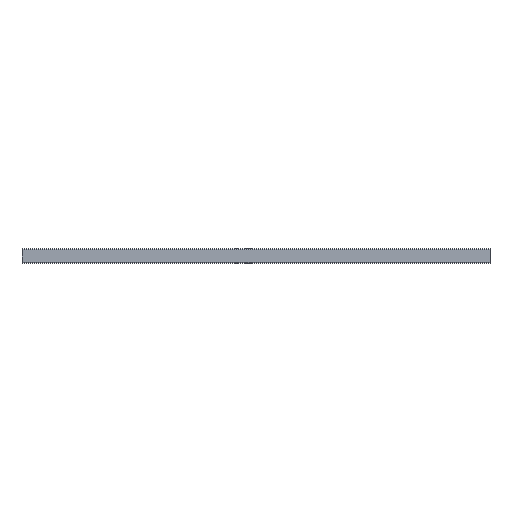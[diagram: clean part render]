
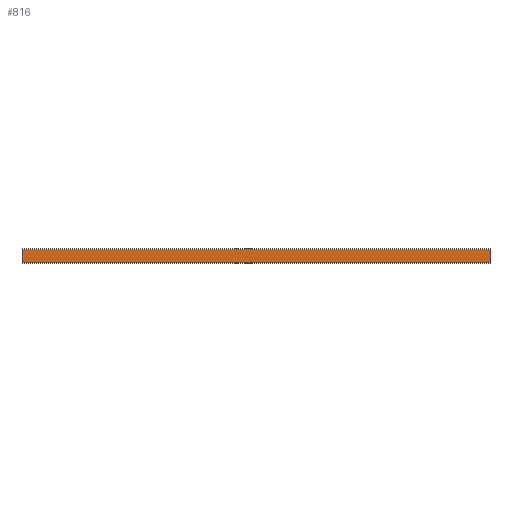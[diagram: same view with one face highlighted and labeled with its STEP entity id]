
A CAD part, top view. The second image highlights one B-rep face of the part: STEP entity #816.
In plain terms, the highlighted planar face has unit normal (0, 0, 1).
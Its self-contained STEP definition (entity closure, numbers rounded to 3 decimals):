
#53 = EDGE_CURVE ( 'NONE', #151, #1241, #1439, .T. ) ;
#151 = VERTEX_POINT ( 'NONE', #3150 ) ;
#178 = EDGE_CURVE ( 'NONE', #1241, #666, #3043, .T. ) ;
#194 = DIRECTION ( 'NONE',  ( 0., 0., -1. ) ) ;
#363 = VECTOR ( 'NONE', #2660, 1000. ) ;
#386 = VECTOR ( 'NONE', #2757, 1000. ) ;
#424 = CARTESIAN_POINT ( 'NONE',  ( 0., -13., 15. ) ) ;
#472 = EDGE_LOOP ( 'NONE', ( #927, #837, #1948, #1854 ) ) ;
#666 = VERTEX_POINT ( 'NONE', #424 ) ;
#684 = LINE ( 'NONE', #787, #702 ) ;
#702 = VECTOR ( 'NONE', #1784, 1000. ) ;
#787 = CARTESIAN_POINT ( 'NONE',  ( 1000., 13., 15. ) ) ;
#816 = ADVANCED_FACE ( 'NONE', ( #1790 ), #1205, .F. ) ;
#837 = ORIENTED_EDGE ( 'NONE', *, *, #178, .F. ) ;
#927 = ORIENTED_EDGE ( 'NONE', *, *, #2554, .T. ) ;
#938 = CARTESIAN_POINT ( 'NONE',  ( 1000., -13., 15. ) ) ;
#988 = CARTESIAN_POINT ( 'NONE',  ( 0., -13., 15. ) ) ;
#995 = AXIS2_PLACEMENT_3D ( 'NONE', #2720, #194, #1964 ) ;
#1205 = PLANE ( 'NONE',  #995 ) ;
#1241 = VERTEX_POINT ( 'NONE', #2360 ) ;
#1258 = EDGE_CURVE ( 'NONE', #151, #2130, #684, .T. ) ;
#1439 = LINE ( 'NONE', #938, #1503 ) ;
#1503 = VECTOR ( 'NONE', #2709, 1000. ) ;
#1646 = LINE ( 'NONE', #988, #386 ) ;
#1784 = DIRECTION ( 'NONE',  ( -1., 0., 0. ) ) ;
#1790 = FACE_OUTER_BOUND ( 'NONE', #472, .T. ) ;
#1854 = ORIENTED_EDGE ( 'NONE', *, *, #1258, .T. ) ;
#1948 = ORIENTED_EDGE ( 'NONE', *, *, #53, .F. ) ;
#1964 = DIRECTION ( 'NONE',  ( -1., 0., 0. ) ) ;
#2130 = VERTEX_POINT ( 'NONE', #2301 ) ;
#2301 = CARTESIAN_POINT ( 'NONE',  ( 0., 13., 15. ) ) ;
#2360 = CARTESIAN_POINT ( 'NONE',  ( 1000., -13., 15. ) ) ;
#2554 = EDGE_CURVE ( 'NONE', #2130, #666, #1646, .T. ) ;
#2641 = CARTESIAN_POINT ( 'NONE',  ( 1000., -13., 15. ) ) ;
#2660 = DIRECTION ( 'NONE',  ( -1., 0., 0. ) ) ;
#2709 = DIRECTION ( 'NONE',  ( 0., -1., 0. ) ) ;
#2720 = CARTESIAN_POINT ( 'NONE',  ( 1000., -13., 15. ) ) ;
#2757 = DIRECTION ( 'NONE',  ( 0., -1., 0. ) ) ;
#3043 = LINE ( 'NONE', #2641, #363 ) ;
#3150 = CARTESIAN_POINT ( 'NONE',  ( 1000., 13., 15. ) ) ;
